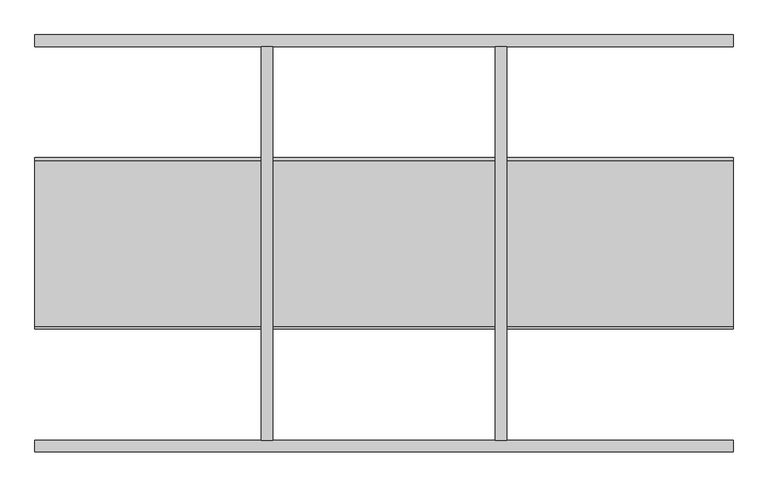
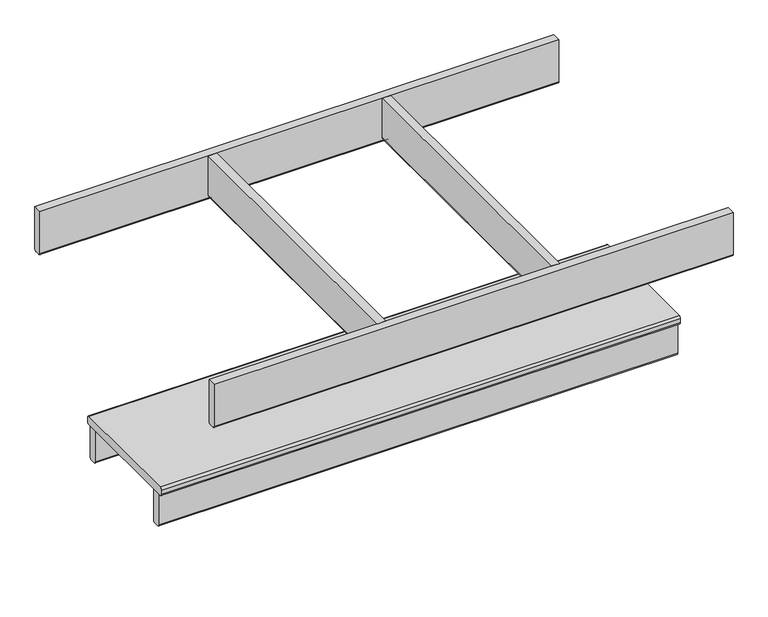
"""IFC4 building model written with IfcOpenShell, lengths in millimetres: furniture geometry, SSL-Childcraft_Outdoor-Table-Rectangle : 2161355."""

import ifcopenshell
import ifcopenshell.guid

model = None  # the IFC model being written
_history = None  # IfcOwnerHistory: only IFC2X3 demands one
_inside = {}  # id of a spatial element -> (the spatial element, [elements in it])
_under = {}  # id of a project, library or spatial element -> (it, [spatial elements below it])
_declared = {}  # id of a project -> (the project, [libraries it declares])
_typed = {}  # id of a type object -> (the type object, [elements of that type])
_made_of = {}  # id of a material, layer set ... -> (it, [elements and type objects made of it])


def new_model(schema):
    """Start an empty IFC model of exactly this schema.

    Asked for "IFC4X3", IfcOpenShell would pick the latest addendum, in which some entities
    have other attributes; the version numbers below select the first issue.
    IFC2X3 requires an IfcOwnerHistory on every rooted entity: one is made here for all.
    """
    global model, _history
    if schema == "IFC4X3":
        model = ifcopenshell.file(schema_version=(4, 3, 0, 0))
    else:
        model = ifcopenshell.file(schema=schema)
    _inside.clear()
    _under.clear()
    _declared.clear()
    _typed.clear()
    _made_of.clear()
    _history = None
    if model.schema == "IFC2X3":
        org = make("IfcOrganization", Name="unknown")
        user = make(
            "IfcPersonAndOrganization",
            ThePerson=make("IfcPerson", FamilyName="unknown"),
            TheOrganization=org,
        )
        app = make(
            "IfcApplication",
            ApplicationDeveloper=org,
            Version="unknown",
            ApplicationFullName="unknown",
            ApplicationIdentifier="unknown",
        )
        _history = make(
            "IfcOwnerHistory",
            OwningUser=user,
            OwningApplication=app,
            ChangeAction="ADDED",
            CreationDate=0,
        )
    return model


def make(cls, **values):
    """One entity of the class cls with the attributes given. An attribute that is None is left unset."""
    return model.create_entity(
        cls, **{name: value for name, value in values.items() if value is not None}
    )


def rooted(cls, **values):
    """An entity with a GlobalId (a new one), such as an element, a storey or a relation."""
    return make(cls, GlobalId=ifcopenshell.guid.new(), OwnerHistory=_history, **values)


def si_unit(unit_type, name, prefix=None):
    """IfcSIUnit, for example si_unit("LENGTHUNIT", "METRE", prefix="MILLI")."""
    return make("IfcSIUnit", UnitType=unit_type, Prefix=prefix, Name=name)


def assignment(units):
    """IfcUnitAssignment: the units of a project."""
    return None if units is None else make("IfcUnitAssignment", Units=units)


def point(xyz):
    """IfcCartesianPoint."""
    return None if xyz is None else make("IfcCartesianPoint", Coordinates=xyz)


def direction(xyz):
    """IfcDirection."""
    return None if xyz is None else make("IfcDirection", DirectionRatios=xyz)


def frame(location, z_axis=None, x_axis=None):
    """IfcAxis2Placement3D, a coordinate frame: its origin and axes. An axis left out is left unset."""
    return make(
        "IfcAxis2Placement3D",
        Location=point(location),
        Axis=direction(z_axis),
        RefDirection=direction(x_axis),
    )


def frame_2d(location, x_axis=None):
    """IfcAxis2Placement2D, a coordinate frame in the plane: its origin and x axis."""
    return make(
        "IfcAxis2Placement2D", Location=point(location), RefDirection=direction(x_axis)
    )


def origin():
    """The frame at (0, 0, 0) with its axes left unset."""
    return frame((0.0, 0.0, 0.0))


def place(relative_to, where):
    """IfcLocalPlacement: puts the frame where relative to a parent placement (None: the world)."""
    return make(
        "IfcLocalPlacement", PlacementRelTo=relative_to, RelativePlacement=where
    )


def context(
    kind, dimensions, precision=None, world=None, true_north=None, identifier=None
):
    """IfcGeometricRepresentationContext, for example the 3D "Model" context."""
    return make(
        "IfcGeometricRepresentationContext",
        ContextIdentifier=identifier,
        ContextType=kind,
        CoordinateSpaceDimension=dimensions,
        Precision=precision,
        WorldCoordinateSystem=world,
        TrueNorth=true_north,
    )


def project(units=None, contexts=None):
    """IfcProject with its units and contexts."""
    return rooted(
        "IfcProject",
        Name="project",
        RepresentationContexts=contexts,
        UnitsInContext=assignment(units),
    )


def spatial(cls, under=None, at=None, **own):
    """A site, building, storey or space (cls), placed at a placement, below another one or the project."""
    s = rooted(cls, ObjectPlacement=at, **own)
    if under is not None:
        _under.setdefault(under.id(), (under, []))[1].append(s)
    return s


def polyline(points):
    """IfcPolyline through the points."""
    return make("IfcPolyline", Points=[point(p) for p in points])


def circle_curve(where, radius):
    """IfcCircle in the frame where."""
    return make("IfcCircle", Position=where, Radius=radius)


def trimmed(basis, trim1, trim2, sense, master):
    """IfcTrimmedCurve: the piece of a basis curve between two trims."""
    return make(
        "IfcTrimmedCurve",
        BasisCurve=basis,
        Trim1=trim1,
        Trim2=trim2,
        SenseAgreement=sense,
        MasterRepresentation=master,
    )


def segment(curve, same_sense, transition):
    """IfcCompositeCurveSegment."""
    return make(
        "IfcCompositeCurveSegment",
        Transition=transition,
        SameSense=same_sense,
        ParentCurve=curve,
    )


def composite_curve(segments, self_intersect=None):
    """IfcCompositeCurve: segments joined end to end."""
    return make("IfcCompositeCurve", Segments=segments, SelfIntersect=self_intersect)


def outline(outer, holes=None, kind="AREA"):
    """IfcArbitraryClosedProfileDef: a profile drawn as a closed curve; with holes, ...WithVoids."""
    if holes is None:
        return make("IfcArbitraryClosedProfileDef", ProfileType=kind, OuterCurve=outer)
    return make(
        "IfcArbitraryProfileDefWithVoids",
        ProfileType=kind,
        OuterCurve=outer,
        InnerCurves=holes,
    )


def extrude(swept, where, along, depth):
    """IfcExtrudedAreaSolid: the profile swept, set in the frame where, extruded along a direction by depth."""
    return make(
        "IfcExtrudedAreaSolid",
        SweptArea=swept,
        Position=where,
        ExtrudedDirection=direction(along),
        Depth=depth,
    )


def shape(context_of_items, identifier, shape_type, items):
    """IfcShapeRepresentation: the items that make up one representation, for example the "Body"."""
    return make(
        "IfcShapeRepresentation",
        ContextOfItems=context_of_items,
        RepresentationIdentifier=identifier,
        RepresentationType=shape_type,
        Items=items,
    )


def source(mapping_origin, context_of_items, identifier, shape_type, items):
    """IfcRepresentationMap: a shape defined once, which mapped items show again and again."""
    return make(
        "IfcRepresentationMap",
        MappingOrigin=mapping_origin,
        MappedRepresentation=shape(context_of_items, identifier, shape_type, items),
    )


def transform(
    local_origin,
    x_axis=None,
    y_axis=None,
    z_axis=None,
    scale=None,
    scale2=None,
    scale3=None,
    uniform=True,
):
    """IfcCartesianTransformationOperator3D, or its non-uniform kind. x_axis, y_axis, z_axis: its Axis1, 2, 3."""
    if uniform:
        return make(
            "IfcCartesianTransformationOperator3D",
            Axis1=direction(x_axis),
            Axis2=direction(y_axis),
            LocalOrigin=point(local_origin),
            Scale=scale,
            Axis3=direction(z_axis),
        )
    return make(
        "IfcCartesianTransformationOperator3DnonUniform",
        Axis1=direction(x_axis),
        Axis2=direction(y_axis),
        LocalOrigin=point(local_origin),
        Scale=scale,
        Axis3=direction(z_axis),
        Scale2=scale2,
        Scale3=scale3,
    )


def mapped(mapping_source, mapping_target):
    """IfcMappedItem: shows the shape of a source again, moved by a transform."""
    return make(
        "IfcMappedItem", MappingSource=mapping_source, MappingTarget=mapping_target
    )


def made_of(thing, what):
    """Note that an element or type object is made of a material, layer set ...; save() writes the relation."""
    if what is not None:
        _made_of.setdefault(what.id(), (what, []))[1].append(thing)
    return thing


def element(
    cls,
    number,
    at=None,
    inside=None,
    cuts=None,
    type_object=None,
    material=None,
    context=None,
    identifier="Body",
    shape_type=None,
    held_by="IfcProductDefinitionShape",
    body=None,
    shapes=None,
    **own,
):
    """One element of the class cls, such as IfcWall. Its Tag is "e" and its number.

    at: its placement. inside: the storey or other place that contains it. cuts: it is an
    opening in that element (IfcRelVoidsElement). A single representation is given by context,
    identifier, shape_type and body (its items); several are given by shapes. held_by: the class
    of the entity that holds the representations. save() writes the other relations.
    """
    e = rooted(cls, Tag="e%d" % number, ObjectPlacement=at, **own)
    if body is not None:
        shapes = [shape(context, identifier, shape_type, body)]
    if shapes is not None:
        e.Representation = make(held_by, Representations=shapes)
    if inside is not None:
        _inside.setdefault(inside.id(), (inside, []))[1].append(e)
    if cuts is not None:
        rooted(
            "IfcRelVoidsElement", RelatingBuildingElement=cuts, RelatedOpeningElement=e
        )
    if type_object is not None:
        _typed.setdefault(type_object.id(), (type_object, []))[1].append(e)
    return made_of(e, material)


def aggregate(whole, parts):
    """IfcRelAggregates: a whole, such as a stair, and the parts it consists of."""
    return rooted("IfcRelAggregates", RelatingObject=whole, RelatedObjects=parts)


def save(model, path):
    """Write the relations noted so far, then the file.

    IfcRelAggregates (storeys below a building ...), IfcRelContainedInSpatialStructure (elements
    in a storey), IfcRelDefinesByType, IfcRelAssociatesMaterial and IfcRelDeclares: one each for
    every whole, place, type object, material and project.
    """
    for whole, parts in _under.values():
        aggregate(whole, parts)
    for where, things in _inside.values():
        rooted(
            "IfcRelContainedInSpatialStructure",
            RelatedElements=things,
            RelatingStructure=where,
        )
    for kind, things in _typed.values():
        rooted("IfcRelDefinesByType", RelatedObjects=things, RelatingType=kind)
    for what, things in _made_of.values():
        rooted("IfcRelAssociatesMaterial", RelatedObjects=things, RelatingMaterial=what)
    for by, libraries in _declared.values():
        rooted("IfcRelDeclares", RelatingContext=by, RelatedDefinitions=libraries)
    model.write(path)


def furniture_96137fb8(model_context):
    return source(origin(), model_context, "Body", "SweptSolid", [
        extrude(outline(composite_curve([segment(polyline([(590.55, -180.975), (590.55, -200.025), (500.0625, -200.025)]), True, "CONTINUOUS"), segment(trimmed(circle_curve(frame_2d((500.0625, -195.2625)), 4.7625), [point((500.0625, -200.025))], [point((495.3, -195.2625))], False, "CARTESIAN"), True, "CONTINUOUS"), segment(polyline([(495.3, -195.2625), (495.3, -185.7375)]), True, "CONTINUOUS"), segment(trimmed(circle_curve(frame_2d((500.0625, -185.7375)), 4.7625), [point((495.3, -185.7375))], [point((500.0625, -180.975))], False, "CARTESIAN"), True, "CONTINUOUS"), segment(polyline([(500.0625, -180.975), (590.55, -180.975)]), True, "CONTINUOUS")], self_intersect=False)), frame((0.0, -320.675, 0.0), z_axis=(0.0, 1.0, 0.0), x_axis=(0.0, 0.0, 1.0)), (0.0, 0.0, 1.0), 641.3503295),
        extrude(outline(composite_curve([segment(polyline([(590.55, 200.025), (590.55, 180.975), (500.0625, 180.975)]), True, "CONTINUOUS"), segment(trimmed(circle_curve(frame_2d((500.0625, 185.7375)), 4.7625), [point((500.0625, 180.975))], [point((495.3, 185.7375))], False, "CARTESIAN"), True, "CONTINUOUS"), segment(polyline([(495.3, 185.7375), (495.3, 195.2625)]), True, "CONTINUOUS"), segment(trimmed(circle_curve(frame_2d((500.0625, 195.2625)), 4.7625), [point((495.3, 195.2625))], [point((500.0625, 200.025))], False, "CARTESIAN"), True, "CONTINUOUS"), segment(polyline([(500.0625, 200.025), (590.55, 200.025)]), True, "CONTINUOUS")], self_intersect=False)), frame((0.0, -320.675, 0.0), z_axis=(0.0, 1.0, 0.0), x_axis=(0.0, 0.0, 1.0)), (0.0, 0.0, 1.0), 641.3503295),
        extrude(outline(composite_curve([segment(polyline([(209.55, -180.975), (209.55, -200.025), (144.4625, -200.025)]), True, "CONTINUOUS"), segment(trimmed(circle_curve(frame_2d((144.4625, -195.2625)), 4.7625), [point((144.4625, -200.025))], [point((139.7, -195.2625))], False, "CARTESIAN"), True, "CONTINUOUS"), segment(polyline([(139.7, -195.2625), (139.7, -185.7375)]), True, "CONTINUOUS"), segment(trimmed(circle_curve(frame_2d((144.4625, -185.7375)), 4.7625), [point((139.7, -185.7375))], [point((144.4625, -180.975))], False, "CARTESIAN"), True, "CONTINUOUS"), segment(polyline([(144.4625, -180.975), (209.55, -180.975)]), True, "CONTINUOUS")], self_intersect=False)), frame((0.0, -111.1249176, 0.0), z_axis=(0.0, 1.0, 0.0), x_axis=(0.0, 0.0, 1.0)), (0.0, 0.0, 1.0), 222.25),
        extrude(outline(composite_curve([segment(polyline([(209.55, 200.025), (209.55, 180.975), (144.4625, 180.975)]), True, "CONTINUOUS"), segment(trimmed(circle_curve(frame_2d((144.4625, 185.7375)), 4.7625), [point((144.4625, 180.975))], [point((139.7, 185.7375))], False, "CARTESIAN"), True, "CONTINUOUS"), segment(polyline([(139.7, 185.7375), (139.7, 195.2625)]), True, "CONTINUOUS"), segment(trimmed(circle_curve(frame_2d((144.4625, 195.2625)), 4.7625), [point((139.7, 195.2625))], [point((144.4625, 200.025))], False, "CARTESIAN"), True, "CONTINUOUS"), segment(polyline([(144.4625, 200.025), (209.55, 200.025)]), True, "CONTINUOUS")], self_intersect=False)), frame((0.0, -111.1249176, 0.0), z_axis=(0.0, 1.0, 0.0), x_axis=(0.0, 0.0, 1.0)), (0.0, 0.0, 1.0), 222.25),
        extrude(outline(composite_curve([segment(trimmed(circle_curve(frame_2d((-134.9374176, 214.3125)), 4.7625), [point((-134.9374176, 209.55))], [point((-139.6999176, 214.3125))], False, "CARTESIAN"), True, "CONTINUOUS"), segment(polyline([(-139.6999176, 214.3125), (-139.6999176, 223.8375)]), True, "CONTINUOUS"), segment(trimmed(circle_curve(frame_2d((-134.9374176, 223.8375)), 4.7625), [point((-139.6999176, 223.8375))], [point((-134.9374176, 228.6))], False, "CARTESIAN"), True, "CONTINUOUS"), segment(polyline([(-134.9374176, 228.6), (134.9375824, 228.6)]), True, "CONTINUOUS"), segment(trimmed(circle_curve(frame_2d((134.9375824, 223.8375)), 4.7625), [point((134.9375824, 228.6))], [point((139.7000824, 223.8375))], False, "CARTESIAN"), True, "CONTINUOUS"), segment(polyline([(139.7000824, 223.8375), (139.7000824, 214.3125)]), True, "CONTINUOUS"), segment(trimmed(circle_curve(frame_2d((134.9375824, 214.3125)), 4.7625), [point((139.7000824, 214.3125))], [point((134.9375824, 209.55))], False, "CARTESIAN"), True, "CONTINUOUS"), segment(polyline([(134.9375824, 209.55), (-134.9374176, 209.55)]), True, "CONTINUOUS")], self_intersect=False)), frame((-568.325, 0.0, 0.0), z_axis=(1.0, 0.0, 0.0), x_axis=(0.0, 1.0, 0.0)), (0.0, 0.0, 1.0), 1136.65),
        extrude(outline(composite_curve([segment(polyline([(320.6753295, 590.55), (339.7253295, 590.55), (339.7253295, 493.7252)]), True, "CONTINUOUS"), segment(trimmed(circle_curve(frame_2d((334.9501295, 493.7252)), 4.7752), [point((339.7253295, 493.7252))], [point((334.9501295, 488.95))], False, "CARTESIAN"), True, "CONTINUOUS"), segment(polyline([(334.9501295, 488.95), (325.4378295, 488.95)]), True, "CONTINUOUS"), segment(trimmed(circle_curve(frame_2d((325.4378295, 493.7125)), 4.7625), [point((325.4378295, 488.95))], [point((320.6753295, 493.7125))], False, "CARTESIAN"), True, "CONTINUOUS"), segment(polyline([(320.6753295, 493.7125), (320.6753295, 590.55)]), True, "CONTINUOUS")], self_intersect=False)), frame((-568.325, 0.0, 0.0), z_axis=(1.0, 0.0, 0.0), x_axis=(0.0, 1.0, 0.0)), (0.0, 0.0, 1.0), 1136.65),
        extrude(outline(composite_curve([segment(polyline([(-339.725, 590.55), (-320.675, 590.55), (-320.675, 493.7125)]), True, "CONTINUOUS"), segment(trimmed(circle_curve(frame_2d((-325.4375, 493.7125)), 4.7625), [point((-320.675, 493.7125))], [point((-325.4375, 488.95))], False, "CARTESIAN"), True, "CONTINUOUS"), segment(polyline([(-325.4375, 488.95), (-334.9625, 488.95)]), True, "CONTINUOUS"), segment(trimmed(circle_curve(frame_2d((-334.9625, 493.7125)), 4.7625), [point((-334.9625, 488.95))], [point((-339.725, 493.7125))], False, "CARTESIAN"), True, "CONTINUOUS"), segment(polyline([(-339.725, 493.7125), (-339.725, 590.55)]), True, "CONTINUOUS")], self_intersect=False)), frame((-568.325, 0.0, 0.0), z_axis=(1.0, 0.0, 0.0), x_axis=(0.0, 1.0, 0.0)), (0.0, 0.0, 1.0), 1136.65),
        extrude(outline(composite_curve([segment(polyline([(111.1250824, 209.55), (130.1750824, 209.55), (130.1750824, 138.1125)]), True, "CONTINUOUS"), segment(trimmed(circle_curve(frame_2d((125.4125824, 138.1125)), 4.7625), [point((130.1750824, 138.1125))], [point((125.4125824, 133.35))], False, "CARTESIAN"), True, "CONTINUOUS"), segment(polyline([(125.4125824, 133.35), (115.8875824, 133.35)]), True, "CONTINUOUS"), segment(trimmed(circle_curve(frame_2d((115.8875824, 138.1125)), 4.7625), [point((115.8875824, 133.35))], [point((111.1250824, 138.1125))], False, "CARTESIAN"), True, "CONTINUOUS"), segment(polyline([(111.1250824, 138.1125), (111.1250824, 209.55)]), True, "CONTINUOUS")], self_intersect=False)), frame((-568.325, 0.0, 0.0), z_axis=(1.0, 0.0, 0.0), x_axis=(0.0, 1.0, 0.0)), (0.0, 0.0, 1.0), 1136.65),
        extrude(outline(composite_curve([segment(polyline([(-130.1749176, 209.55), (-111.1249176, 209.55), (-111.1249176, 138.1125)]), True, "CONTINUOUS"), segment(trimmed(circle_curve(frame_2d((-115.8874176, 138.1125)), 4.7625), [point((-111.1249176, 138.1125))], [point((-115.8874176, 133.35))], False, "CARTESIAN"), True, "CONTINUOUS"), segment(polyline([(-115.8874176, 133.35), (-125.4124176, 133.35)]), True, "CONTINUOUS"), segment(trimmed(circle_curve(frame_2d((-125.4124176, 138.1125)), 4.7625), [point((-125.4124176, 133.35))], [point((-130.1749176, 138.1125))], False, "CARTESIAN"), True, "CONTINUOUS"), segment(polyline([(-130.1749176, 138.1125), (-130.1749176, 209.55)]), True, "CONTINUOUS")], self_intersect=False)), frame((-568.325, 0.0, 0.0), z_axis=(1.0, 0.0, 0.0), x_axis=(0.0, 1.0, 0.0)), (0.0, 0.0, 1.0), 1136.65),
    ])


if __name__ == "__main__":
    model = new_model("IFC4")
    model_context = context("Model", 3, world=origin())
    ifc_project = project(units=[si_unit("LENGTHUNIT", "METRE", prefix="MILLI")], contexts=[model_context])
    site = spatial("IfcSite", under=ifc_project)
    building = spatial("IfcBuilding", under=site)
    placement = place(None, origin())
    furniture_shape = furniture_96137fb8(model_context)
    element("IfcFurniture", 1, ObjectType="SSL-Childcraft_Outdoor-Table-Rectangle : 2161355", at=placement, inside=building, context=model_context, shape_type="MappedRepresentation", body=[
        mapped(furniture_shape, transform((0.0, 0.0, 0.0), x_axis=(1.0, 0.0, 0.0), y_axis=(0.0, 1.0, 0.0), z_axis=(0.0, 0.0, 1.0))),
    ])
    save(model, "model.ifc")
